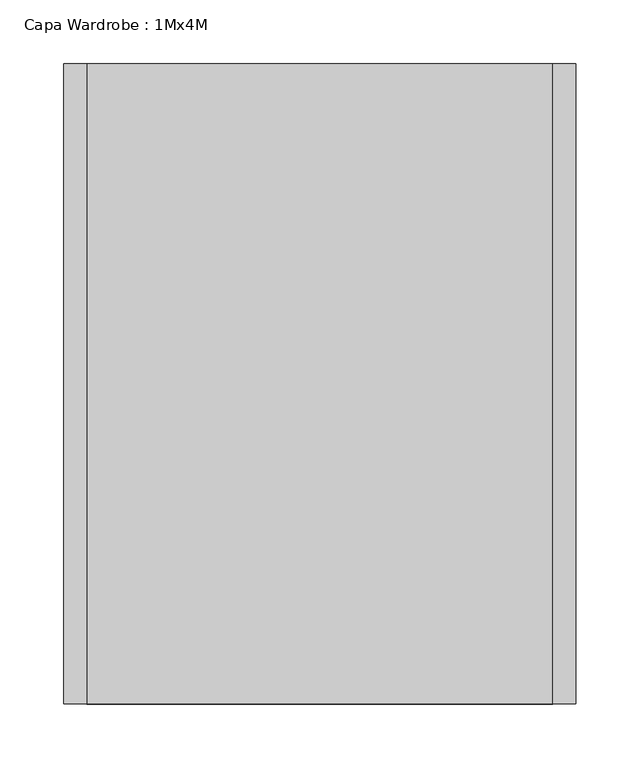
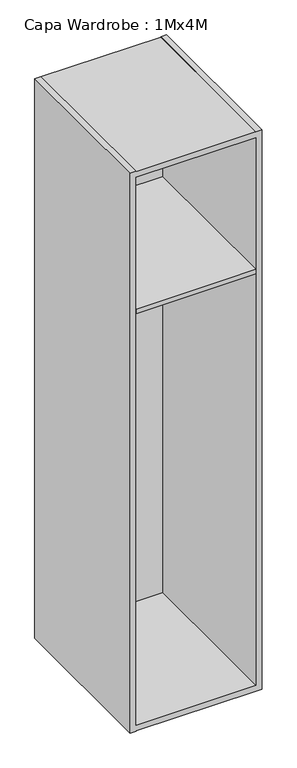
"""IFC4 building model written with IfcOpenShell, lengths in millimetres: furniture geometry, Capa Wardrobe : 1Mx4M."""

from ifc_helpers import new_model, si_unit, point, frame, frame_2d, origin, place, context, project, spatial, polyline, circle_curve, trimmed, segment, composite_curve, outline, extrude, faceted_brep, source, transform, mapped, element, save


def capa_wardrobe_1mx4m_87f3b355(model_context):
    return source(origin(), model_context, "Body", "SolidModel", [
        extrude(outline(polyline([(182.0, -500.0), (-182.0, -500.0), (-182.0, -10.0), (182.0, -10.0), (182.0, -500.0)])), frame((0.0, 0.0, 1337.0), z_axis=(0.0, 0.0, 1.0), x_axis=(1.0, 0.0, 0.0)), (0.0, 0.0, 1.0), 14.0),
        extrude(outline(composite_curve([segment(polyline([(-250.0, 1244.0), (-250.0, 1224.0)]), True, "CONTINUOUS"), segment(trimmed(circle_curve(frame_2d((-258.0, 1224.0)), 8.0), [point((-250.0, 1224.0))], [point((-266.0, 1224.0))], False, "CARTESIAN"), True, "CONTINUOUS"), segment(polyline([(-266.0, 1224.0), (-266.0, 1244.0)]), True, "CONTINUOUS"), segment(trimmed(circle_curve(frame_2d((-258.0, 1244.0)), 8.0), [point((-266.0, 1244.0))], [point((-250.0, 1244.0))], False, "CARTESIAN"), True, "CONTINUOUS")], self_intersect=False)), frame((-182.0, 0.0, 0.0), z_axis=(1.0, 0.0, 0.0), x_axis=(0.0, 1.0, 0.0)), (0.0, 0.0, 1.0), 364.0),
        faceted_brep([(-182.0, 0.0, 1792.0), (-182.0, 0.0, 1791.0), (182.0, 0.0, 1791.0), (182.0, 0.0, 1792.0), (200.0, 0.0, 1792.0), (200.0, 0.0, 0.0), (182.0, 0.0, 0.0), (182.0, 0.0, 1.0), (-182.0, 0.0, 1.0), (-182.0, 0.0, 0.0), (-200.0, 0.0, 0.0), (-200.0, 0.0, 1792.0), (182.0, -10.0, 19.0), (182.0, -10.0, 1773.0), (-182.0, -10.0, 1773.0), (-182.0, -10.0, 19.0), (-182.0, -500.0, 1792.0), (-200.0, -500.0, 1792.0), (-200.0, -500.0, 0.0), (-182.0, -500.0, 0.0), (-182.0, -500.0, 1.0), (182.0, -500.0, 1.0), (182.0, -500.0, 0.0), (200.0, -500.0, 0.0), (200.0, -500.0, 1792.0), (182.0, -500.0, 1792.0), (182.0, -500.0, 1791.0), (-182.0, -500.0, 1791.0), (182.0, -500.0, 1773.0), (182.0, -500.0, 19.0), (-182.0, -500.0, 19.0), (-182.0, -500.0, 1773.0)], [[[0, 1, 2, 3, 4, 5, 6, 7, 8, 9, 10, 11]], [[12, 13, 14, 15]], [[16, 17, 18, 19, 20, 21, 22, 23, 24, 25, 26, 27], [28, 29, 30, 31]], [[17, 16, 0, 11]], [[18, 17, 11, 10]], [[23, 22, 6, 5]], [[24, 23, 5, 4]], [[19, 18, 10, 9]], [[20, 19, 9, 8]], [[21, 20, 8, 7]], [[22, 21, 7, 6]], [[25, 24, 4, 3]], [[26, 25, 3, 2]], [[27, 26, 2, 1]], [[16, 27, 1, 0]], [[29, 28, 13, 12]], [[30, 29, 12, 15]], [[31, 30, 15, 14]], [[28, 31, 14, 13]]]),
    ])


if __name__ == "__main__":
    model = new_model("IFC4")
    model_context = context("Model", 3, world=origin())
    ifc_project = project(units=[si_unit("LENGTHUNIT", "METRE", prefix="MILLI")], contexts=[model_context])
    site = spatial("IfcSite", under=ifc_project)
    building = spatial("IfcBuilding", under=site)
    placement = place(None, origin())
    capa_wardrobe_1mx4m_shape = capa_wardrobe_1mx4m_87f3b355(model_context)
    element("IfcFurniture", 1, ObjectType="Capa Wardrobe : 1Mx4M", at=placement, inside=building, context=model_context, shape_type="MappedRepresentation", body=[
        mapped(capa_wardrobe_1mx4m_shape, transform((0.0, 0.0, 0.0), x_axis=(1.0, 0.0, 0.0), y_axis=(0.0, 1.0, 0.0), z_axis=(0.0, 0.0, 1.0))),
    ])
    save(model, "model.ifc")
